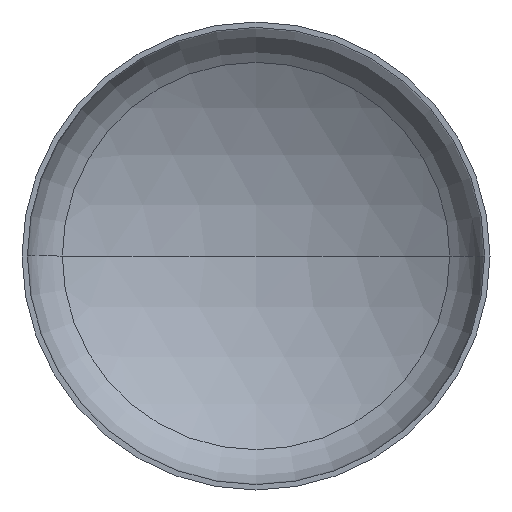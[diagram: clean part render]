
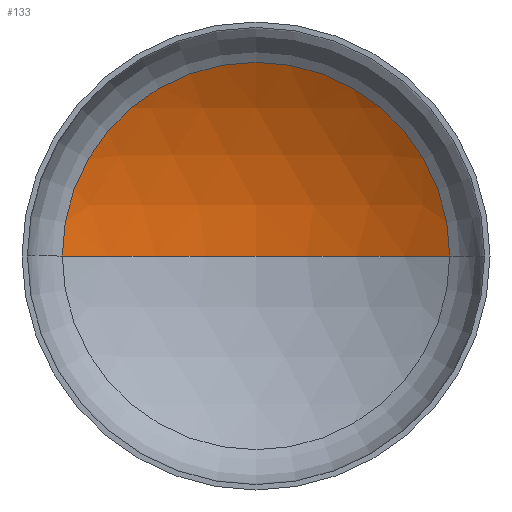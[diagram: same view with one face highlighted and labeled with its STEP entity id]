
A CAD part, front view. The second image highlights one B-rep face of the part: STEP entity #133.
In plain terms, the highlighted spherical face has radius 3600 mm.
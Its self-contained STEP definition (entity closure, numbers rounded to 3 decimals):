
#5 = EDGE_LOOP ( 'NONE', ( #86, #74, #18 ) ) ;
#17 = AXIS2_PLACEMENT_3D ( 'NONE', #206, #202, #230 ) ;
#18 = ORIENTED_EDGE ( 'NONE', *, *, #88, .T. ) ;
#25 = CARTESIAN_POINT ( 'NONE',  ( 0., 1234.036, 0. ) ) ;
#27 = AXIS2_PLACEMENT_3D ( 'NONE', #132, #281, #301 ) ;
#29 = DIRECTION ( 'NONE',  ( -1., 0., 0. ) ) ;
#30 = AXIS2_PLACEMENT_3D ( 'NONE', #147, #352, #29 ) ;
#33 = AXIS2_PLACEMENT_3D ( 'NONE', #203, #209, #381 ) ;
#74 = ORIENTED_EDGE ( 'NONE', *, *, #94, .T. ) ;
#86 = ORIENTED_EDGE ( 'NONE', *, *, #97, .F. ) ;
#88 = EDGE_CURVE ( 'NONE', #295, #120, #342, .T. ) ;
#94 = EDGE_CURVE ( 'NONE', #117, #295, #211, .T. ) ;
#97 = EDGE_CURVE ( 'NONE', #117, #120, #330, .T. ) ;
#117 = VERTEX_POINT ( 'NONE', #25 ) ;
#120 = VERTEX_POINT ( 'NONE', #155 ) ;
#132 = CARTESIAN_POINT ( 'NONE',  ( 0., -2365.964, 0. ) ) ;
#133 = ADVANCED_FACE ( 'NONE', ( #143 ), #276, .F. ) ;
#143 = FACE_OUTER_BOUND ( 'NONE', #5, .T. ) ;
#147 = CARTESIAN_POINT ( 'NONE',  ( 0., -2365.964, 0. ) ) ;
#155 = CARTESIAN_POINT ( 'NONE',  ( -1862.582, 714.749, 0. ) ) ;
#202 = DIRECTION ( 'NONE',  ( 0., 0., -1. ) ) ;
#203 = CARTESIAN_POINT ( 'NONE',  ( 0., 714.749, 0. ) ) ;
#206 = CARTESIAN_POINT ( 'NONE',  ( 0., -2365.964, 0. ) ) ;
#209 = DIRECTION ( 'NONE',  ( 0., -1., 0. ) ) ;
#211 = CIRCLE ( 'NONE', #30, 3600. ) ;
#230 = DIRECTION ( 'NONE',  ( -1., 0., 0. ) ) ;
#276 = SPHERICAL_SURFACE ( 'NONE', #17, 3600. ) ;
#281 = DIRECTION ( 'NONE',  ( 0., 0., 1. ) ) ;
#295 = VERTEX_POINT ( 'NONE', #393 ) ;
#301 = DIRECTION ( 'NONE',  ( 1., 0., 0. ) ) ;
#330 = CIRCLE ( 'NONE', #27, 3600. ) ;
#342 = CIRCLE ( 'NONE', #33, 1862.582 ) ;
#352 = DIRECTION ( 'NONE',  ( 0., 0., -1. ) ) ;
#381 = DIRECTION ( 'NONE',  ( 1., 0., 0. ) ) ;
#393 = CARTESIAN_POINT ( 'NONE',  ( 1862.582, 714.749, 0. ) ) ;
